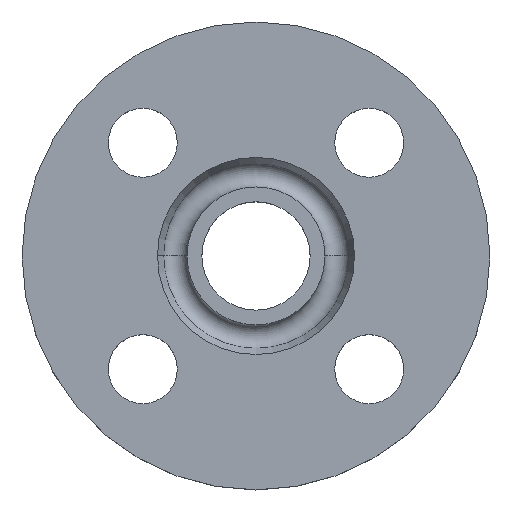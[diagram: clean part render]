
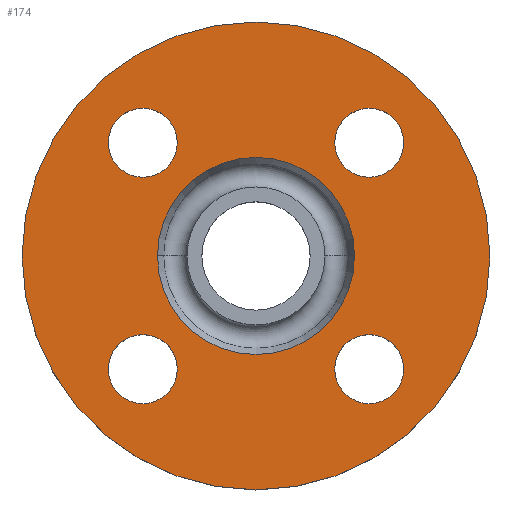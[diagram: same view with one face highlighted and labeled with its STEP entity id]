
A CAD part, top view. The second image highlights one B-rep face of the part: STEP entity #174.
In plain terms, the highlighted planar face has unit normal (0, 0, 1).
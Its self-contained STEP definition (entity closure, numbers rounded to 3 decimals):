
#11 = DIRECTION ( 'NONE',  ( 1., 0., 0. ) ) ;
#23 = EDGE_LOOP ( 'NONE', ( #761, #712 ) ) ;
#30 = AXIS2_PLACEMENT_3D ( 'NONE', #254, #817, #35 ) ;
#35 = DIRECTION ( 'NONE',  ( -1., 0., 0. ) ) ;
#45 = ORIENTED_EDGE ( 'NONE', *, *, #413, .T. ) ;
#54 = CARTESIAN_POINT ( 'NONE',  ( 29.981, -22.981, -2. ) ) ;
#55 = FACE_BOUND ( 'NONE', #622, .T. ) ;
#57 = AXIS2_PLACEMENT_3D ( 'NONE', #78, #629, #311 ) ;
#78 = CARTESIAN_POINT ( 'NONE',  ( 22.981, 22.981, -2. ) ) ;
#82 = DIRECTION ( 'NONE',  ( 0., 0., -1. ) ) ;
#83 = CIRCLE ( 'NONE', #471, 7. ) ;
#84 = ORIENTED_EDGE ( 'NONE', *, *, #322, .T. ) ;
#88 = EDGE_LOOP ( 'NONE', ( #45, #226 ) ) ;
#89 = AXIS2_PLACEMENT_3D ( 'NONE', #461, #110, #490 ) ;
#99 = CIRCLE ( 'NONE', #193, 7. ) ;
#110 = DIRECTION ( 'NONE',  ( 0., 0., -1. ) ) ;
#121 = FACE_BOUND ( 'NONE', #357, .T. ) ;
#128 = VERTEX_POINT ( 'NONE', #749 ) ;
#137 = DIRECTION ( 'NONE',  ( -1., 0., 0. ) ) ;
#139 = DIRECTION ( 'NONE',  ( 0., 0., 1. ) ) ;
#140 = VERTEX_POINT ( 'NONE', #427 ) ;
#145 = CIRCLE ( 'NONE', #57, 7. ) ;
#162 = VERTEX_POINT ( 'NONE', #394 ) ;
#174 = ADVANCED_FACE ( 'NONE', ( #346, #804, #55, #121, #407, #286 ), #470, .T. ) ;
#176 = ORIENTED_EDGE ( 'NONE', *, *, #341, .T. ) ;
#178 = EDGE_CURVE ( 'NONE', #711, #140, #145, .T. ) ;
#190 = DIRECTION ( 'NONE',  ( 0., 0., -1. ) ) ;
#193 = AXIS2_PLACEMENT_3D ( 'NONE', #333, #669, #203 ) ;
#194 = AXIS2_PLACEMENT_3D ( 'NONE', #664, #82, #681 ) ;
#200 = ORIENTED_EDGE ( 'NONE', *, *, #317, .T. ) ;
#203 = DIRECTION ( 'NONE',  ( 1., 0., 0. ) ) ;
#226 = ORIENTED_EDGE ( 'NONE', *, *, #573, .T. ) ;
#230 = DIRECTION ( 'NONE',  ( 1., 0., 0. ) ) ;
#248 = CARTESIAN_POINT ( 'NONE',  ( 0., 0., -2. ) ) ;
#254 = CARTESIAN_POINT ( 'NONE',  ( 0., 0., -2. ) ) ;
#267 = DIRECTION ( 'NONE',  ( 1., 0., 0. ) ) ;
#268 = CIRCLE ( 'NONE', #194, 20. ) ;
#269 = EDGE_CURVE ( 'NONE', #304, #730, #99, .T. ) ;
#274 = CIRCLE ( 'NONE', #326, 7. ) ;
#275 = EDGE_CURVE ( 'NONE', #277, #128, #332, .T. ) ;
#277 = VERTEX_POINT ( 'NONE', #555 ) ;
#281 = EDGE_CURVE ( 'NONE', #730, #304, #274, .T. ) ;
#286 = FACE_OUTER_BOUND ( 'NONE', #23, .T. ) ;
#304 = VERTEX_POINT ( 'NONE', #760 ) ;
#305 = VERTEX_POINT ( 'NONE', #706 ) ;
#311 = DIRECTION ( 'NONE',  ( 1., 0., 0. ) ) ;
#317 = EDGE_CURVE ( 'NONE', #345, #162, #355, .T. ) ;
#322 = EDGE_CURVE ( 'NONE', #140, #711, #83, .T. ) ;
#326 = AXIS2_PLACEMENT_3D ( 'NONE', #494, #810, #230 ) ;
#332 = CIRCLE ( 'NONE', #742, 47.5 ) ;
#333 = CARTESIAN_POINT ( 'NONE',  ( -22.981, 22.981, -2. ) ) ;
#338 = CARTESIAN_POINT ( 'NONE',  ( 22.981, -22.981, -2. ) ) ;
#340 = EDGE_CURVE ( 'NONE', #162, #345, #743, .T. ) ;
#341 = EDGE_CURVE ( 'NONE', #748, #305, #268, .T. ) ;
#345 = VERTEX_POINT ( 'NONE', #593 ) ;
#346 = FACE_BOUND ( 'NONE', #88, .T. ) ;
#347 = AXIS2_PLACEMENT_3D ( 'NONE', #358, #653, #562 ) ;
#350 = CIRCLE ( 'NONE', #30, 20. ) ;
#355 = CIRCLE ( 'NONE', #347, 7. ) ;
#357 = EDGE_LOOP ( 'NONE', ( #84, #422 ) ) ;
#358 = CARTESIAN_POINT ( 'NONE',  ( -22.981, -22.981, -2. ) ) ;
#366 = CARTESIAN_POINT ( 'NONE',  ( 22.981, 22.981, -2. ) ) ;
#392 = AXIS2_PLACEMENT_3D ( 'NONE', #248, #816, #453 ) ;
#394 = CARTESIAN_POINT ( 'NONE',  ( -15.981, -22.981, -2. ) ) ;
#407 = FACE_BOUND ( 'NONE', #613, .T. ) ;
#408 = AXIS2_PLACEMENT_3D ( 'NONE', #338, #190, #267 ) ;
#412 = EDGE_LOOP ( 'NONE', ( #707, #200 ) ) ;
#413 = EDGE_CURVE ( 'NONE', #478, #737, #721, .T. ) ;
#422 = ORIENTED_EDGE ( 'NONE', *, *, #178, .T. ) ;
#427 = CARTESIAN_POINT ( 'NONE',  ( 29.981, 22.981, -2. ) ) ;
#429 = CARTESIAN_POINT ( 'NONE',  ( -29.981, 22.981, -2. ) ) ;
#434 = DIRECTION ( 'NONE',  ( 1., 0., 0. ) ) ;
#435 = CIRCLE ( 'NONE', #392, 47.5 ) ;
#447 = DIRECTION ( 'NONE',  ( 0., 0., -1. ) ) ;
#453 = DIRECTION ( 'NONE',  ( -1., 0., 0. ) ) ;
#461 = CARTESIAN_POINT ( 'NONE',  ( -22.981, -22.981, -2. ) ) ;
#468 = CARTESIAN_POINT ( 'NONE',  ( 47.5, 0., -2. ) ) ;
#470 = PLANE ( 'NONE',  #692 ) ;
#471 = AXIS2_PLACEMENT_3D ( 'NONE', #366, #536, #434 ) ;
#478 = VERTEX_POINT ( 'NONE', #54 ) ;
#490 = DIRECTION ( 'NONE',  ( 1., 0., 0. ) ) ;
#494 = CARTESIAN_POINT ( 'NONE',  ( -22.981, 22.981, -2. ) ) ;
#508 = CARTESIAN_POINT ( 'NONE',  ( 22.981, -22.981, -2. ) ) ;
#514 = EDGE_CURVE ( 'NONE', #128, #277, #435, .T. ) ;
#536 = DIRECTION ( 'NONE',  ( 0., 0., -1. ) ) ;
#555 = CARTESIAN_POINT ( 'NONE',  ( -47.5, 0., -2. ) ) ;
#562 = DIRECTION ( 'NONE',  ( 1., 0., 0. ) ) ;
#564 = EDGE_CURVE ( 'NONE', #305, #748, #350, .T. ) ;
#566 = AXIS2_PLACEMENT_3D ( 'NONE', #508, #447, #11 ) ;
#573 = EDGE_CURVE ( 'NONE', #737, #478, #624, .T. ) ;
#581 = DIRECTION ( 'NONE',  ( 0., 0., -1. ) ) ;
#593 = CARTESIAN_POINT ( 'NONE',  ( -29.981, -22.981, -2. ) ) ;
#613 = EDGE_LOOP ( 'NONE', ( #651, #176 ) ) ;
#622 = EDGE_LOOP ( 'NONE', ( #645, #772 ) ) ;
#624 = CIRCLE ( 'NONE', #566, 7. ) ;
#629 = DIRECTION ( 'NONE',  ( 0., 0., -1. ) ) ;
#645 = ORIENTED_EDGE ( 'NONE', *, *, #269, .T. ) ;
#651 = ORIENTED_EDGE ( 'NONE', *, *, #564, .T. ) ;
#653 = DIRECTION ( 'NONE',  ( 0., 0., -1. ) ) ;
#664 = CARTESIAN_POINT ( 'NONE',  ( 0., 0., -2. ) ) ;
#669 = DIRECTION ( 'NONE',  ( 0., 0., -1. ) ) ;
#670 = CARTESIAN_POINT ( 'NONE',  ( 15.981, -22.981, -2. ) ) ;
#681 = DIRECTION ( 'NONE',  ( -1., 0., 0. ) ) ;
#692 = AXIS2_PLACEMENT_3D ( 'NONE', #468, #139, #779 ) ;
#706 = CARTESIAN_POINT ( 'NONE',  ( 20., 0., -2. ) ) ;
#707 = ORIENTED_EDGE ( 'NONE', *, *, #340, .T. ) ;
#711 = VERTEX_POINT ( 'NONE', #747 ) ;
#712 = ORIENTED_EDGE ( 'NONE', *, *, #275, .F. ) ;
#721 = CIRCLE ( 'NONE', #408, 7. ) ;
#730 = VERTEX_POINT ( 'NONE', #429 ) ;
#732 = CARTESIAN_POINT ( 'NONE',  ( -20., 0., -2. ) ) ;
#737 = VERTEX_POINT ( 'NONE', #670 ) ;
#742 = AXIS2_PLACEMENT_3D ( 'NONE', #769, #581, #137 ) ;
#743 = CIRCLE ( 'NONE', #89, 7. ) ;
#747 = CARTESIAN_POINT ( 'NONE',  ( 15.981, 22.981, -2. ) ) ;
#748 = VERTEX_POINT ( 'NONE', #732 ) ;
#749 = CARTESIAN_POINT ( 'NONE',  ( 47.5, 0., -2. ) ) ;
#760 = CARTESIAN_POINT ( 'NONE',  ( -15.981, 22.981, -2. ) ) ;
#761 = ORIENTED_EDGE ( 'NONE', *, *, #514, .F. ) ;
#769 = CARTESIAN_POINT ( 'NONE',  ( 0., 0., -2. ) ) ;
#772 = ORIENTED_EDGE ( 'NONE', *, *, #281, .T. ) ;
#779 = DIRECTION ( 'NONE',  ( 1., 0., 0. ) ) ;
#804 = FACE_BOUND ( 'NONE', #412, .T. ) ;
#810 = DIRECTION ( 'NONE',  ( 0., 0., -1. ) ) ;
#816 = DIRECTION ( 'NONE',  ( 0., 0., -1. ) ) ;
#817 = DIRECTION ( 'NONE',  ( 0., 0., -1. ) ) ;
